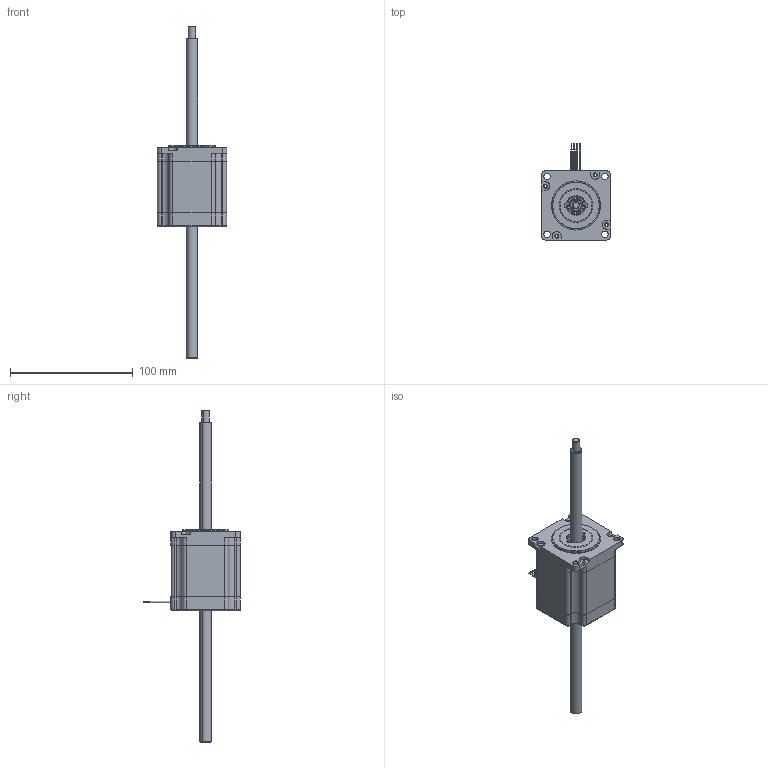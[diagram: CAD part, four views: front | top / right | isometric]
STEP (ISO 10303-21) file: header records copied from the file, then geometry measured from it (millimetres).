
FILE_DESCRIPTION (( 'STEP AP203' ), '1' );
FILE_NAME ('57Ë«µþºñ¹áÍ¨.STEP', '2014-09-12T05:53:29', ( 'user' ), ( 'pxctfys' ), 'SwSTEP 2.0', 'SolidWorks 2012', '' );
FILE_SCHEMA (( 'CONFIG_CONTROL_DESIGN' ));
Length unit declared in the file: millimetre
Products named in the file (1): 57邧詁綠嫗籵
Bounding box: 56.26 x 78.33 x 270 mm (x, y, z)
Surface area: 36959.1 mm2 (no closed solid volume)
Topology: 0 solids, 22 shells, 265 faces, 1362 edges, 1120 vertices
Faces by surface type: cylinder 135, plane 99, torus 16, cone 15
Entity records: 13985 total; most frequent: CARTESIAN_POINT 2772, DIRECTION 2518, ORIENTED_EDGE 1959, EDGE_CURVE 1362, VERTEX_POINT 1120, AXIS2_PLACEMENT_3D 898, LINE 722, VECTOR 722
